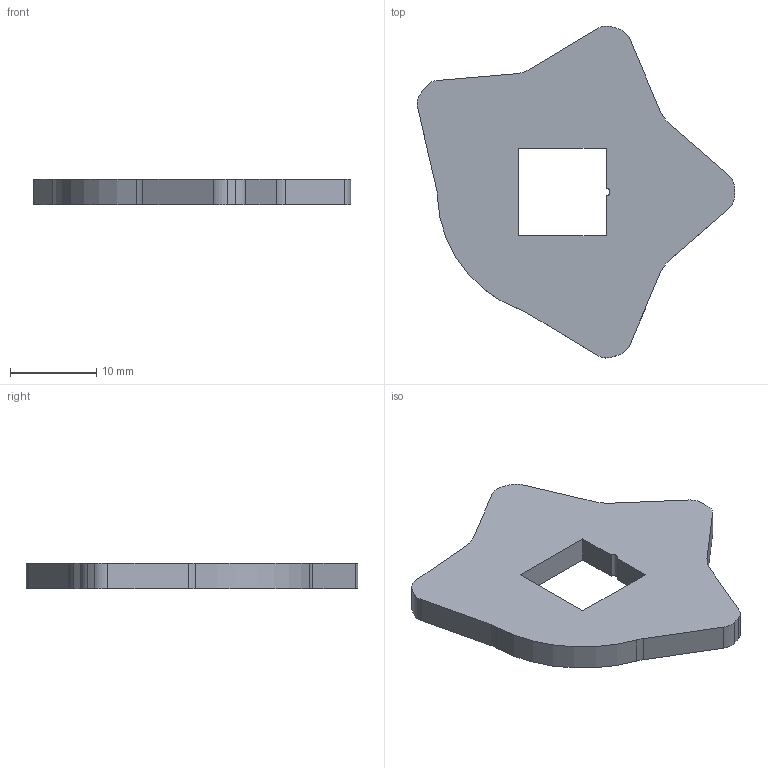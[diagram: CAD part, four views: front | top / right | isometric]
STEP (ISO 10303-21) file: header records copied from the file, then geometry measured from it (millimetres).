
FILE_DESCRIPTION(/* description */ ('STEP AP242','CAx-IF Rec.Pracs.---Representation and Presentation of Product Manufacturing Information (PMI)---4.0---2014-10-13','CAx-IF Rec.Pracs.---3D Tessellated Geometry---0.4---2014-09-14','2;1'),/* implementation_level */ '2;1');
FILE_NAME(/* name */ 'Part Studio 1 - Segment E Cam',/* time_stamp */ '2025-09-04T05:47:29Z',/* author */ (''),/* organization */ (''),/* preprocessor_version */ 'ST-DEVELOPER v20',/* originating_system */ 'ONSHAPE BY PTC INC, 1.203',/* authorisation */ ' ');
FILE_SCHEMA (('AP242_MANAGED_MODEL_BASED_3D_ENGINEERING_MIM_LF { 1 0 10303 442 1 1 4 }'));
Length unit declared in the file: metre
Products named in the file (1): Segment E Cam
Bounding box: 36.81 x 38.5 x 3 mm (x, y, z)
Volume: 2260.8 mm3; surface area: 1977.5 mm2
Topology: 1 solids, 1 shells, 34 faces, 96 edges, 64 vertices
Faces by surface type: cylinder 19, plane 15
Entity records: 1144 total; most frequent: DIRECTION 204, CARTESIAN_POINT 195, ORIENTED_EDGE 192, EDGE_CURVE 96, AXIS2_PLACEMENT_3D 73, VERTEX_POINT 64, LINE 58, VECTOR 58
